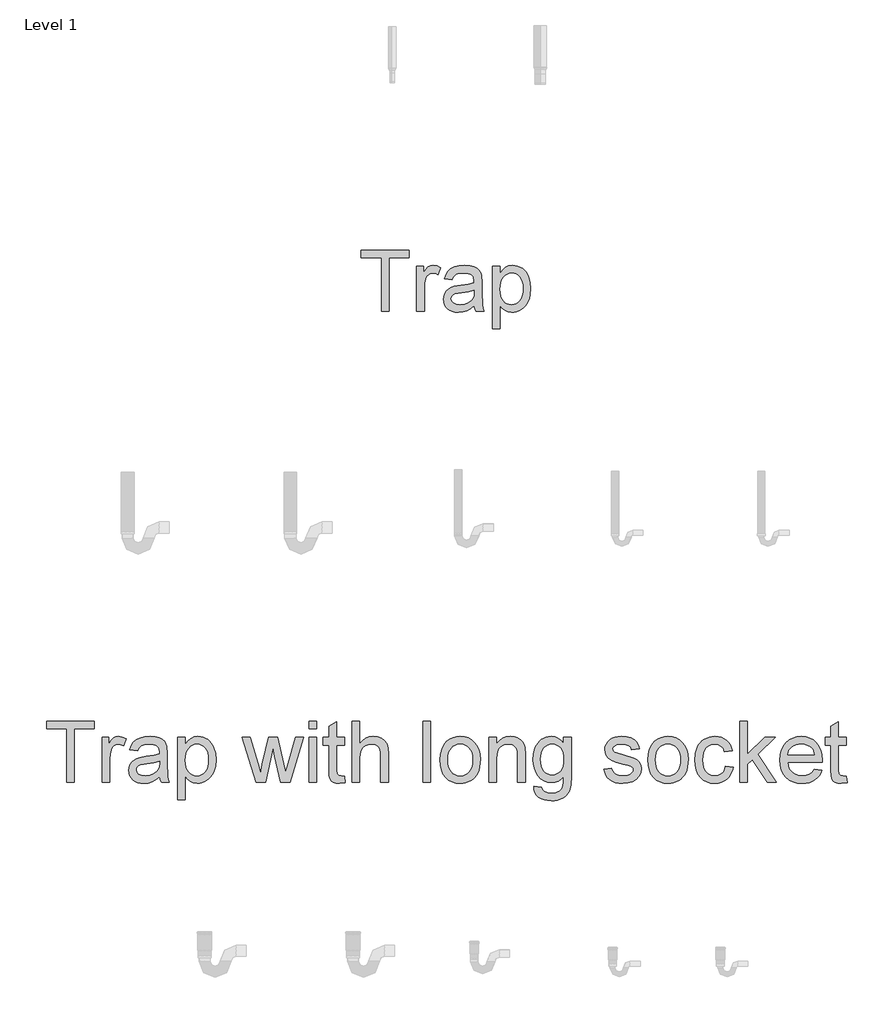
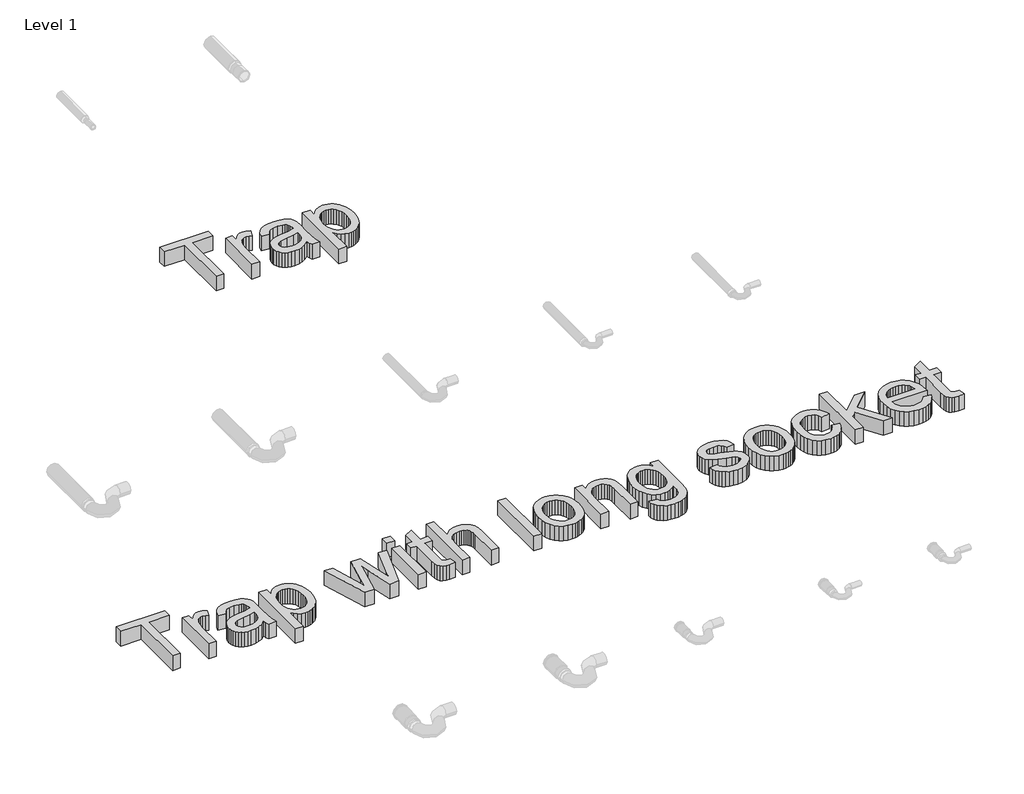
# One storey, part 27 of 29: 2 proxies.
"""IFC4 building model written with IfcOpenShell, lengths in millimetres."""

from ifc_helpers import new_model, si_unit, origin, origin_with_axes, place, context, project, spatial, polyline, outline, extrude, element, save

model = new_model("IFC4")

# Units and contexts
model_context = context("Model", 3, world=origin())
ifc_project = project(units=[si_unit("LENGTHUNIT", "METRE", prefix="MILLI")], contexts=[model_context])

# Site, building, storey
site = spatial("IfcSite", under=ifc_project)
building = spatial("IfcBuilding", under=site)
storey = spatial("IfcBuildingStorey", under=building, Name="Level 1", Elevation=0.0)

# Proxies
placement = place(None, origin())
element("IfcBuildingElementProxy", 1, Name="600mm Arial", ObjectType="600mm Arial", at=placement, inside=storey, context=model_context, shape_type="SweptSolid", body=[
    extrude(outline(polyline([(72567.5168432, 17212.0086588), (72567.5168432, 17739.4042871), (72369.7434826, 17739.4042871), (72369.7434826, 17814.7465197), (72840.6324364, 17814.7465197), (72840.6324364, 17739.4042871), (72642.8590758, 17739.4042871), (72642.8590758, 17212.0086588), (72567.5168432, 17212.0086588)])), origin_with_axes(), (0.0, 0.0, 1.0), 150.0),
    extrude(outline(polyline([(72915.974669, 17212.0086588), (72915.974669, 17654.6442754), (72981.8991226, 17654.6442754), (72981.8991226, 17589.1612803), (73006.2529106, 17627.1267022), (73028.6937123, 17649.4939275), (73051.2080905, 17660.4200227), (73075.7826077, 17664.0620545), (73113.3065712, 17658.249519), (73151.4191459, 17640.8119124), (73126.2560175, 17573.2687781), (73099.7685138, 17584.8570609), (73073.2810102, 17588.7198219), (73050.7850262, 17585.0042137), (73030.6802751, 17573.8573893), (73014.438285, 17556.1254771), (73003.5305839, 17532.6546058), (72994.3703222, 17490.5689056), (72991.3169016, 17444.6572326), (72991.3169016, 17212.0086588), (72915.974669, 17212.0086588)])), origin_with_axes(), (0.0, 0.0, 1.0), 150.0),
    extrude(outline(polyline([(73481.0414136, 17268.5153333), (73445.0441604, 17237.6500339), (73407.9800494, 17217.4533123), (73369.002952, 17206.3064879), (73327.2667396, 17202.5908797), (73293.7205002, 17204.8257628), (73264.3037362, 17211.5304122), (73239.0164475, 17222.7048278), (73217.8586343, 17238.3490097), (73201.1521932, 17257.4696764), (73189.2190209, 17279.0735465), (73182.0591176, 17303.1606202), (73179.6724832, 17329.7308973), (73183.2777267, 17360.9640787), (73194.0934574, 17389.3277805), (73210.7769059, 17413.6079922), (73231.9853029, 17432.5907031), (73256.9093081, 17446.9381009), (73284.739581, 17457.3123732), (73349.9282705, 17468.6431386), (73426.9627603, 17480.5625153), (73480.5999552, 17494.5420311), (73481.0414136, 17511.3174501), (73475.8542775, 17544.9418644), (73469.3703573, 17557.39467), (73460.2928691, 17566.9412078), (73444.602702, 17576.4693514), (73425.4912323, 17583.2751683), (73377.0043854, 17588.7198219), (73332.122782, 17585.0961842), (73300.779236, 17574.2252713), (73279.4052921, 17554.1205202), (73264.4324949, 17522.7953683), (73189.0902622, 17532.2131474), (73202.1684672, 17573.4159309), (73221.684607, 17605.7895464), (73249.4596977, 17630.5480047), (73287.314755, 17648.9053163), (73333.6127041, 17660.2728699), (73386.7164701, 17664.0620545), (73437.6497323, 17660.7143283), (73478.0247813, 17650.6711499), (73508.4670164, 17635.569594), (73529.601837, 17617.0467355), (73543.618141, 17594.1460813), (73552.7048263, 17565.9111382), (73556.3836462, 17499.9866846), (73556.3836462, 17406.2503523), (73560.209619, 17275.3579384), (73565.8750017, 17243.0027169), (73575.2192044, 17212.0086588), (73499.8769718, 17212.0086588), (73487.8104423, 17238.2018569), (73481.0414136, 17268.5153333)]), holes=[polyline([(73481.0414136, 17419.1997985), (73430.4208511, 17406.6550225), (73359.4932024, 17396.0968092), (73294.6723949, 17383.883127), (73277.8050054, 17375.5322057), (73265.3154116, 17364.0174992), (73257.5898897, 17350.2219244), (73255.0147158, 17335.028398), (73260.6249162, 17312.6243845), (73277.4555175, 17294.2670729), (73305.1386376, 17282.0166025), (73343.3063946, 17277.9331123), (73383.7734141, 17282.4396668), (73419.531544, 17295.9593301), (73448.5206452, 17315.8801401), (73468.6805786, 17339.5901347), (73477.6201111, 17364.0174992), (73480.5999552, 17397.8626428), (73481.0414136, 17419.1997985)])]), origin_with_axes(), (0.0, 0.0, 1.0), 150.0),
    extrude(outline(polyline([(73659.9792161, 17042.4886354), (73659.9792161, 17654.6442754), (73735.3214487, 17654.6442754), (73735.3214487, 17580.7735708), (73759.895966, 17617.2122824), (73787.4135392, 17643.2399336), (73819.4928492, 17658.8565242), (73857.7525767, 17664.0620545), (73884.0285482, 17662.2410386), (73908.704233, 17656.777991), (73931.7796312, 17647.6729116), (73953.2547426, 17634.9258005), (73972.6605179, 17618.8677514), (73989.5279074, 17599.8298581), (74003.8569111, 17577.8121207), (74015.647529, 17552.8145391), (74031.4296666, 17497.3011461), (74036.6903791, 17436.7109815), (74030.7490849, 17372.27645), (74023.3224671, 17342.6113656), (74012.9252022, 17314.6477355), (73999.6998445, 17289.116725), (73983.7889482, 17266.7494997), (73965.1925134, 17247.5460595), (73943.91054, 17231.5064045), (73920.9868931, 17218.8558624), (73897.4654381, 17209.8197609), (73873.3461748, 17204.3981), (73848.6291032, 17202.5908797), (73813.9930134, 17207.428528), (73783.0725317, 17221.9414727), (73756.6034221, 17243.8488455), (73735.3214487, 17270.869778), (73735.3214487, 17042.4886354), (73659.9792161, 17042.4886354)]), holes=[polyline([(73735.3214487, 17429.7947999), (73737.3585952, 17393.484847), (73743.4700349, 17362.2516656), (73753.6557676, 17336.0952558), (73767.9157935, 17315.0156175), (73785.0820871, 17298.7920215), (73803.9866231, 17287.2037386), (73824.6294015, 17280.2507689), (73847.0104224, 17277.9331123), (73869.71334, 17280.3335424), (73890.7331975, 17287.5348324), (73910.0699949, 17299.5369825), (73927.7237322, 17316.3399926), (73942.4344134, 17338.1829861), (73952.9420429, 17365.3050862), (73959.2466206, 17397.7062929), (73961.3481465, 17435.3866063), (73959.2972044, 17471.3838595), (73953.144378, 17502.5618586), (73942.8896674, 17528.9206035), (73928.5330726, 17550.4600944), (73911.3253922, 17567.1987251), (73892.5174252, 17579.15489), (73872.1091715, 17586.3285889), (73850.1006312, 17588.7198219), (73828.1610687, 17586.1768376), (73807.5182902, 17578.5478847), (73788.1722958, 17565.8329632), (73770.1230854, 17548.0320732), (73754.8973694, 17525.3843379), (73744.0218579, 17498.1288806), (73737.496551, 17466.2657012), (73735.3214487, 17429.7947999)])]), origin_with_axes(), (0.0, 0.0, 1.0), 150.0),
])
element("IfcBuildingElementProxy", 2, Name="600mm Arial", ObjectType="600mm Arial", at=placement, inside=storey, context=model_context, shape_type="SweptSolid", body=[
    extrude(outline(polyline([(69472.8636888, 12581.4756524), (69472.8636888, 13108.8712807), (69275.0903282, 13108.8712807), (69275.0903282, 13184.2135133), (69745.979282, 13184.2135133), (69745.979282, 13108.8712807), (69548.2059214, 13108.8712807), (69548.2059214, 12581.4756524), (69472.8636888, 12581.4756524)])), origin_with_axes(), (0.0, 0.0, 1.0), 150.0),
    extrude(outline(polyline([(69821.3215146, 12581.4756524), (69821.3215146, 13024.111269), (69887.2459681, 13024.111269), (69887.2459681, 12958.6282739), (69911.5997562, 12996.5936958), (69934.0405579, 13018.9609211), (69956.554936, 13029.8870163), (69981.1294533, 13033.5290481), (70018.6534168, 13027.7165125), (70056.7659915, 13010.278906), (70031.602863, 12942.7357717), (70005.1153594, 12954.3240545), (69978.6278557, 12958.1868155), (69956.1318717, 12954.4712073), (69936.0271207, 12943.3243829), (69919.7851306, 12925.5924707), (69908.8774295, 12902.1215994), (69899.7171678, 12860.0358991), (69896.6637472, 12814.1242261), (69896.6637472, 12581.4756524), (69821.3215146, 12581.4756524)])), origin_with_axes(), (0.0, 0.0, 1.0), 150.0),
    extrude(outline(polyline([(70386.3882592, 12637.9823269), (70350.391006, 12607.1170275), (70313.3268949, 12586.9203059), (70274.3497976, 12575.7734815), (70232.6135852, 12572.0578733), (70199.0673458, 12574.2927564), (70169.6505817, 12580.9974058), (70144.3632931, 12592.1718214), (70123.2054798, 12607.8160033), (70106.4990387, 12626.9366699), (70094.5658665, 12648.5405401), (70087.4059632, 12672.6276138), (70085.0193287, 12699.1978909), (70088.6245723, 12730.4310722), (70099.440303, 12758.7947741), (70116.1237514, 12783.0749858), (70137.3321485, 12802.0576967), (70162.2561536, 12816.4050945), (70190.0864266, 12826.7793668), (70255.2751161, 12838.1101322), (70332.3096059, 12850.0295089), (70385.9468008, 12864.0090247), (70386.3882592, 12880.7844437), (70381.2011231, 12914.408858), (70374.7172029, 12926.8616636), (70365.6397147, 12936.4082013), (70349.9495476, 12945.936345), (70330.8380779, 12952.7421619), (70282.351231, 12958.1868155), (70237.4696275, 12954.5631778), (70206.1260816, 12943.6922648), (70184.7521376, 12923.5875138), (70169.7793404, 12892.2623619), (70094.4371078, 12901.680141), (70107.5153127, 12942.8829245), (70127.0314526, 12975.25654), (70154.8065432, 13000.0149983), (70192.6616005, 13018.3723099), (70238.9595496, 13029.7398635), (70292.0633156, 13033.5290481), (70342.9965779, 13030.1813219), (70383.3716268, 13020.1381434), (70413.8138619, 13005.0365875), (70434.9486826, 12986.5137291), (70448.9649866, 12963.6130749), (70458.0516719, 12935.3781318), (70461.7304918, 12869.4536782), (70461.7304918, 12775.7173458), (70465.5564646, 12644.824932), (70471.2218473, 12612.4697105), (70480.56605, 12581.4756524), (70405.2238173, 12581.4756524), (70393.1572879, 12607.6688505), (70386.3882592, 12637.9823269)]), holes=[polyline([(70386.3882592, 12788.6667921), (70335.7676967, 12776.122016), (70264.840048, 12765.5638028), (70200.0192404, 12753.3501205), (70183.151851, 12744.9991993), (70170.6622572, 12733.4844928), (70162.9367353, 12719.688918), (70160.3615614, 12704.4953916), (70165.9717618, 12682.0913781), (70182.8023631, 12663.7340665), (70210.4854832, 12651.4835961), (70248.6532402, 12647.4001059), (70289.1202597, 12651.9066604), (70324.8783896, 12665.4263237), (70353.8674908, 12685.3471337), (70374.0274242, 12709.0571283), (70382.9669566, 12733.4844928), (70385.9468008, 12767.3296364), (70386.3882592, 12788.6667921)])]), origin_with_axes(), (0.0, 0.0, 1.0), 150.0),
    extrude(outline(polyline([(70565.3260616, 12411.955629), (70565.3260616, 13024.111269), (70640.6682943, 13024.111269), (70640.6682943, 12950.2405644), (70665.2428115, 12986.679276), (70692.7603848, 13012.7069271), (70724.8396948, 13028.3235178), (70763.0994223, 13033.5290481), (70789.3753938, 13031.7080322), (70814.0510786, 13026.2449846), (70837.1264767, 13017.1399052), (70858.6015882, 13004.3927941), (70878.0073634, 12988.334745), (70894.8747529, 12969.2968517), (70909.2037566, 12947.2791143), (70920.9943746, 12922.2815327), (70936.7765122, 12866.7681397), (70942.0372247, 12806.177975), (70936.0959305, 12741.7434436), (70928.6693127, 12712.0783592), (70918.2720478, 12684.1147291), (70905.0466901, 12658.5837186), (70889.1357938, 12636.2164933), (70870.5393589, 12617.0130531), (70849.2573855, 12600.9733981), (70826.3337387, 12588.322856), (70802.8122836, 12579.2867545), (70778.6930203, 12573.8650936), (70753.9759488, 12572.0578733), (70719.3398589, 12576.8955216), (70688.4193772, 12591.4084663), (70661.9502677, 12613.3158391), (70640.6682943, 12640.3367716), (70640.6682943, 12411.955629), (70565.3260616, 12411.955629)]), holes=[polyline([(70640.6682943, 12799.2617935), (70642.7054408, 12762.9518406), (70648.8168804, 12731.7186592), (70659.0026132, 12705.5622494), (70673.262639, 12684.482611), (70690.4289326, 12668.2590151), (70709.3334687, 12656.6707322), (70729.9762471, 12649.7177625), (70752.357268, 12647.4001059), (70775.0601856, 12649.800536), (70796.0800431, 12657.001826), (70815.4168405, 12669.0039761), (70833.0705777, 12685.8069862), (70847.781259, 12707.6499797), (70858.2888885, 12734.7720798), (70864.5934662, 12767.1732865), (70866.6949921, 12804.8535999), (70864.64405, 12840.8508531), (70858.4912236, 12872.0288522), (70848.236513, 12898.3875971), (70833.8799181, 12919.927088), (70816.6722378, 12936.6657187), (70797.8642708, 12948.6218836), (70777.4560171, 12955.7955825), (70755.4474768, 12958.1868155), (70733.5079143, 12955.6438312), (70712.8651358, 12948.0148783), (70693.5191414, 12935.2999568), (70675.469931, 12917.4990668), (70660.2442149, 12894.8513315), (70649.3687034, 12867.5958741), (70642.8433966, 12835.7326948), (70640.6682943, 12799.2617935)])]), origin_with_axes(), (0.0, 0.0, 1.0), 150.0),
    extrude(outline(polyline([(71335.6709595, 12581.4756524), (71201.0261493, 13024.111269), (71279.3114379, 13024.111269), (71355.6837401, 12765.8581084), (71378.4924238, 12673.593304), (71397.1808291, 12762.473594), (71457.9549347, 13024.111269), (71547.7181416, 13024.111269), (71608.1979416, 12763.209358), (71624.8262078, 12682.7167775), (71648.664961, 12767.623942), (71725.184416, 13024.111269), (71803.7640102, 13024.111269), (71668.0891304, 12581.4756524), (71577.0015484, 12581.4756524), (71519.1704987, 12841.0531882), (71502.3950798, 12921.9872271), (71427.7886111, 12581.4756524), (71335.6709595, 12581.4756524)])), origin_with_axes(), (0.0, 0.0, 1.0), 150.0),
    extrude(outline(polyline([(71855.5617951, 12581.4756524), (71855.5617951, 13024.111269), (71930.9040277, 13024.111269), (71930.9040277, 12581.4756524), (71855.5617951, 12581.4756524)])), origin_with_axes(), (0.0, 0.0, 1.0), 150.0),
    extrude(outline(polyline([(71855.5617951, 13108.8712807), (71855.5617951, 13184.2135133), (71930.9040277, 13184.2135133), (71930.9040277, 13108.8712807), (71855.5617951, 13108.8712807)])), origin_with_axes(), (0.0, 0.0, 1.0), 150.0),
    extrude(outline(polyline([(72204.019621, 12644.3098972), (72213.4374, 12579.2683604), (72157.0778784, 12572.0578733), (72120.9150782, 12575.1848703), (72093.949328, 12584.5658612), (72074.8930407, 12599.0236236), (72062.4586292, 12617.3809351), (72055.6160241, 12648.9084221), (72053.3351557, 12702.8767108), (72053.3351557, 12948.7690364), (71996.8284813, 12948.7690364), (71996.8284813, 13024.111269), (72053.3351557, 13024.111269), (72053.3351557, 13131.6799644), (72128.6773883, 13175.9729566), (72128.6773883, 13024.111269), (72204.019621, 13024.111269), (72204.019621, 12948.7690364), (72128.6773883, 12948.7690364), (72128.6773883, 12705.0840028), (72132.6505139, 12666.2356641), (72145.5263837, 12652.4768775), (72156.3972967, 12648.6692988), (72171.204547, 12647.4001059), (72204.019621, 12644.3098972)])), origin_with_axes(), (0.0, 0.0, 1.0), 150.0),
    extrude(outline(polyline([(72279.3618536, 12581.4756524), (72279.3618536, 13184.2135133), (72354.7040862, 13184.2135133), (72354.7040862, 12962.6013994), (72382.3780093, 12993.6322457), (72413.4548408, 13015.7971359), (72447.9345808, 13029.09607), (72485.8172293, 13033.5290481), (72531.3242321, 13028.6913998), (72570.4300882, 13014.1784551), (72601.2218112, 12991.1306481), (72621.7864147, 12960.688413), (72633.3746975, 12918.8602302), (72637.2374585, 12861.6545799), (72637.2374585, 12581.4756524), (72561.8952259, 12581.4756524), (72561.8952259, 12853.8554816), (72560.3961067, 12879.2945216), (72555.8987493, 12901.0179534), (72548.4031537, 12919.0257771), (72537.9093198, 12933.3179926), (72524.665568, 12944.1981026), (72508.9202186, 12951.9696097), (72490.6732716, 12956.632514), (72469.9247271, 12958.1868155), (72438.0845404, 12953.9929607), (72408.1941283, 12941.4113965), (72383.43567, 12921.6561333), (72366.9913448, 12895.9411819), (72357.7759008, 12861.7649445), (72354.7040862, 12816.6258237), (72354.7040862, 12581.4756524), (72279.3618536, 12581.4756524)])), origin_with_axes(), (0.0, 0.0, 1.0), 150.0),
    extrude(outline(polyline([(72976.2775052, 12581.4756524), (72976.2775052, 13184.2135133), (73051.6197378, 13184.2135133), (73051.6197378, 12581.4756524), (72976.2775052, 12581.4756524)])), origin_with_axes(), (0.0, 0.0, 1.0), 150.0),
    extrude(outline(polyline([(73145.7975286, 12802.7934607), (73149.8718217, 12860.1186726), (73162.094701, 12909.5160275), (73182.4661665, 12950.9855254), (73210.9862182, 12984.5271663), (73239.6994079, 13005.9654896), (73271.3924418, 13021.2785776), (73306.0653198, 13030.4664305), (73343.718042, 13033.5290481), (73385.2841089, 13029.7996443), (73422.8678533, 13018.6114332), (73456.469275, 12999.9644145), (73486.0883742, 12973.8585885), (73510.2628198, 12941.1768717), (73527.5302809, 12902.8021811), (73537.8907576, 12858.7345166), (73541.3442498, 12808.9738782), (73539.8175395, 12768.6448145), (73535.2374087, 12732.8590934), (73527.6038573, 12701.616715), (73516.9168853, 12674.9176792), (73503.3098501, 12651.8560766), (73486.9161086, 12631.5259978), (73467.7356611, 12613.9274429), (73445.7685075, 12599.0604118), (73421.8699734, 12587.2468012), (73396.8953844, 12578.8085079), (73370.8447406, 12573.745532), (73343.718042, 12572.0578733), (73301.5449698, 12575.7734815), (73263.6117376, 12586.9203059), (73229.9183453, 12605.4983467), (73200.4647931, 12631.5076037), (73176.5478649, 12664.5066187), (73159.4643447, 12704.0539332), (73149.2142326, 12750.1495472), (73145.7975286, 12802.7934607)]), holes=[polyline([(73221.1397612, 12802.9406135), (73223.319462, 12766.3961358), (73229.8585645, 12734.7536857), (73240.7570686, 12708.0132632), (73256.0149744, 12686.1748682), (73274.574621, 12669.2109097), (73295.3783479, 12657.0937965), (73318.4261548, 12649.8235286), (73343.718042, 12647.4001059), (73368.8811705, 12649.8373241), (73391.837007, 12657.1489788), (73412.5855515, 12669.3350699), (73431.1268041, 12686.3955974), (73446.3847098, 12708.450123), (73457.2832139, 12735.6182084), (73463.8223164, 12767.8998535), (73466.0020172, 12805.2950583), (73463.8085208, 12840.6807077), (73457.2280316, 12871.4954233), (73446.2605496, 12897.7392051), (73430.9060749, 12919.4120532), (73412.2958444, 12936.3760117), (73391.5610955, 12948.4931249), (73368.701828, 12955.7633928), (73343.718042, 12958.1868155), (73318.4261548, 12955.7725899), (73295.3783479, 12948.5299131), (73274.574621, 12936.4587851), (73256.0149744, 12919.559206), (73240.7570686, 12897.7851904), (73229.8585645, 12871.0907531), (73223.319462, 12839.4758941), (73221.1397612, 12802.9406135)])]), origin_with_axes(), (0.0, 0.0, 1.0), 150.0),
    extrude(outline(polyline([(73626.1042615, 12581.4756524), (73626.1042615, 13024.111269), (73701.4464941, 13024.111269), (73701.4464941, 12962.3070938), (73727.6212981, 12993.4666988), (73759.0568146, 13015.7235595), (73795.7530436, 13029.0776759), (73837.7099851, 13033.5290481), (73874.8476726, 13029.9421986), (73908.858363, 13019.1816503), (73937.2220648, 13002.5901723), (73957.4187864, 12981.510534), (73971.1223907, 12955.9979176), (73980.0067409, 12926.1075055), (73983.9798664, 12853.2668704), (73983.9798664, 12581.4756524), (73908.6376338, 12581.4756524), (73908.6376338, 12843.1133274), (73906.46713, 12882.0720307), (73899.9556187, 12909.7735449), (73887.9442716, 12929.6207785), (73869.2742603, 12945.01664), (73845.3435365, 12954.8942716), (73817.5500518, 12958.1868155), (73794.6723902, 12956.3382084), (73773.4226065, 12950.7923874), (73753.8007006, 12941.5493522), (73735.8066725, 12928.609103), (73720.7740944, 12910.5001118), (73710.0365387, 12885.7508506), (73703.5940053, 12854.3613194), (73701.4464941, 12816.3315181), (73701.4464941, 12581.4756524), (73626.1042615, 12581.4756524)])), origin_with_axes(), (0.0, 0.0, 1.0), 150.0),
    extrude(outline(polyline([(74068.7398781, 12543.8045361), (74144.0821107, 12534.386757), (74152.3962438, 12510.8423093), (74168.5094752, 12494.6555015), (74200.184115, 12482.0739373), (74241.6444158, 12477.8800826), (74285.8638317, 12482.6257603), (74303.7245025, 12488.5578575), (74318.752482, 12496.8627935), (74341.5611657, 12519.6714772), (74355.5406816, 12550.1321064), (74359.6241717, 12582.5425102), (74360.6910295, 12637.9823269), (74335.6198715, 12613.2606568), (74307.6424458, 12595.602321), (74276.7587523, 12585.0073195), (74242.968791, 12581.4756524), (74201.6602415, 12585.5867337), (74165.2905077, 12597.9199776), (74133.8595898, 12618.4753841), (74107.3674876, 12647.2529531), (74086.3476301, 12681.7786784), (74071.3334462, 12719.5785534), (74062.3249358, 12760.6525781), (74059.322099, 12805.0007527), (74064.7115703, 12865.8300406), (74080.879984, 12921.7664979), (74092.8637399, 12946.9894072), (74107.257123, 12969.168093), (74124.0601331, 12988.3025553), (74143.2727703, 13004.3927941), (74164.5869334, 13017.1399052), (74187.6945213, 13026.2449846), (74212.5955338, 13031.7080322), (74239.2899711, 13033.5290481), (74274.5238692, 13029.4087697), (74306.5020116, 13017.0479347), (74335.2243984, 12996.446543), (74360.6910295, 12967.6045945), (74360.6910295, 13024.111269), (74436.0332621, 13024.111269), (74436.0332621, 12641.9554524), (74430.8829142, 12553.7189559), (74424.4449792, 12520.8992834), (74415.4318704, 12495.6119947), (74403.6274568, 12475.2175366), (74388.815608, 12457.0763557), (74370.9963239, 12441.1884521), (74350.1696044, 12427.5538256), (74326.5469818, 12416.6093363), (74300.3399882, 12408.7918439), (74271.5486235, 12404.1013484), (74240.1728879, 12402.5378499), (74203.2605282, 12404.7405434), (74170.0729737, 12411.3486237), (74140.6102244, 12422.362091), (74114.8722803, 12437.7809451), (74094.0823491, 12457.6235802), (74079.4636383, 12481.9083904), (74071.016148, 12510.6353757), (74068.7398781, 12543.8045361)]), holes=[polyline([(74134.6643316, 12810.1511006), (74136.673887, 12772.8984501), (74142.7025532, 12741.0444678), (74152.7503302, 12714.5891538), (74166.817218, 12693.5325081), (74183.9191323, 12677.4698605), (74203.0719887, 12665.9965408), (74224.2757871, 12659.112549), (74247.5305278, 12656.817885), (74270.5553421, 12659.0987534), (74291.6579731, 12665.9413585), (74310.8384206, 12677.3457003), (74328.0966847, 12693.3117789), (74342.3567105, 12714.161491), (74352.5424433, 12740.2167333), (74358.6538829, 12771.4775059), (74360.6910295, 12807.9438086), (74358.5941021, 12842.8879996), (74352.30332, 12873.2612569), (74341.8186831, 12899.0635803), (74327.1401915, 12920.29497), (74309.5094469, 12936.8726524), (74290.168051, 12948.7138541), (74269.1160038, 12955.8185751), (74246.3533054, 12958.1868155), (74223.9722845, 12955.8553633), (74203.329506, 12948.8610069), (74184.42497, 12937.2037462), (74167.2586764, 12920.8835811), (74152.9986506, 12899.9740882), (74142.8129178, 12874.5488439), (74136.7014782, 12844.607848), (74134.6643316, 12810.1511006)])]), origin_with_axes(), (0.0, 0.0, 1.0), 150.0),
    extrude(outline(polyline([(74756.2377507, 12713.3245595), (74831.5799833, 12722.7423385), (74836.132523, 12705.5622494), (74843.4625718, 12690.5158758), (74853.5701296, 12677.6032177), (74866.4551965, 12666.8242753), (74882.1545606, 12658.3262012), (74900.7050102, 12652.2561483), (74946.3591658, 12647.4001059), (74991.4614984, 12651.8514781), (75008.9910755, 12657.4156933), (75023.1729264, 12665.2055945), (75041.9349082, 12684.5561874), (75046.6254036, 12695.3903122), (75048.1889021, 12706.9969892), (75046.6162065, 12717.1689263), (75041.89812, 12726.2004293), (75023.0257736, 12740.8421327), (74994.8092246, 12750.4070646), (74945.476249, 12762.3264412), (74876.7191041, 12782.2104631), (74832.0214417, 12799.1882171), (74803.308252, 12817.7110756), (74782.5045252, 12842.2304106), (74769.8677786, 12871.1827236), (74765.6555298, 12903.0045162), (74769.0400441, 12932.1959525), (74779.1935872, 12959.1433086), (74795.196454, 12982.7797268), (74816.1289395, 13002.0383493), (74836.9326663, 13014.160061), (74864.0271753, 13024.3319982), (74895.3523272, 13031.2297856), (74928.8479828, 13033.5290481), (74977.8866528, 13029.831834), (75020.524176, 13018.7401919), (75054.810778, 13001.3393735), (75078.7966841, 12978.7146308), (75094.6891863, 12949.1921007), (75104.6955765, 12911.0979201), (75029.3533439, 12901.680141), (75019.8435943, 12925.3901356), (75001.0264303, 12943.2508065), (74972.7179108, 12954.4528132), (74934.7340948, 12958.1868155), (74891.4711721, 12954.6183601), (74862.6292237, 12943.912994), (74846.4056277, 12928.4619502), (74840.9977624, 12910.6564617), (74843.2418426, 12899.0681788), (74849.9740831, 12888.7306948), (74861.4887895, 12879.4968567), (74878.0802675, 12872.1024286), (74942.9746515, 12856.0627736), (75053.5599792, 12820.5989493), (75082.7698096, 12803.6395893), (75104.9163057, 12780.4262354), (75118.8774274, 12750.8853112), (75123.5311347, 12714.9432402), (75118.0680871, 12677.7871587), (75101.6789442, 12642.8383692), (75074.9891054, 12612.8375925), (75038.6239702, 12590.5255495), (74994.69886, 12576.6747924), (74945.3290962, 12572.0578733), (74904.7793033, 12574.2835594), (74869.3614642, 12580.9606176), (74839.075579, 12592.089048), (74813.9216475, 12607.6688505), (74793.3754381, 12627.6264487), (74776.9127188, 12651.8882663), (74764.5334897, 12680.4543032), (74756.2377507, 12713.3245595)])), origin_with_axes(), (0.0, 0.0, 1.0), 150.0),
    extrude(outline(polyline([(75189.4555882, 12802.7934607), (75193.5298813, 12860.1186726), (75205.7527606, 12909.5160275), (75226.1242261, 12950.9855254), (75254.6442778, 12984.5271663), (75283.3574675, 13005.9654896), (75315.0505014, 13021.2785776), (75349.7233794, 13030.4664305), (75387.3761016, 13033.5290481), (75428.9421686, 13029.7996443), (75466.5259129, 13018.6114332), (75500.1273346, 12999.9644145), (75529.7464338, 12973.8585885), (75553.9208794, 12941.1768717), (75571.1883405, 12902.8021811), (75581.5488172, 12858.7345166), (75585.0023094, 12808.9738782), (75583.4755992, 12768.6448145), (75578.8954683, 12732.8590934), (75571.2619169, 12701.616715), (75560.574945, 12674.9176792), (75546.9679097, 12651.8560766), (75530.5741682, 12631.5259978), (75511.3937207, 12613.9274429), (75489.4265671, 12599.0604118), (75465.528033, 12587.2468012), (75440.553444, 12578.8085079), (75414.5028002, 12573.745532), (75387.3761016, 12572.0578733), (75345.2030294, 12575.7734815), (75307.2697972, 12586.9203059), (75273.5764049, 12605.4983467), (75244.1228527, 12631.5076037), (75220.2059245, 12664.5066187), (75203.1224043, 12704.0539332), (75192.8722922, 12750.1495472), (75189.4555882, 12802.7934607)]), holes=[polyline([(75264.7978208, 12802.9406135), (75266.9775217, 12766.3961358), (75273.5166241, 12734.7536857), (75284.4151282, 12708.0132632), (75299.673034, 12686.1748682), (75318.2326806, 12669.2109097), (75339.0364075, 12657.0937965), (75362.0842145, 12649.8235286), (75387.3761016, 12647.4001059), (75412.5392301, 12649.8373241), (75435.4950666, 12657.1489788), (75456.2436111, 12669.3350699), (75474.7848637, 12686.3955974), (75490.0427694, 12708.450123), (75500.9412735, 12735.6182084), (75507.480376, 12767.8998535), (75509.6600768, 12805.2950583), (75507.4665804, 12840.6807077), (75500.8860912, 12871.4954233), (75489.9186093, 12897.7392051), (75474.5641345, 12919.4120532), (75455.953904, 12936.3760117), (75435.2191551, 12948.4931249), (75412.3598876, 12955.7633928), (75387.3761016, 12958.1868155), (75362.0842145, 12955.7725899), (75339.0364075, 12948.5299131), (75318.2326806, 12936.4587851), (75299.673034, 12919.559206), (75284.4151282, 12897.7851904), (75273.5166241, 12871.0907531), (75266.9775217, 12839.4758941), (75264.7978208, 12802.9406135)])]), origin_with_axes(), (0.0, 0.0, 1.0), 150.0),
    extrude(outline(polyline([(75952.2956934, 12741.5778967), (76027.637926, 12732.1601176), (76019.4433546, 12696.6089213), (76006.6318641, 12665.1504122), (75989.2034546, 12637.7845903), (75967.158126, 12614.5114556), (75941.4247805, 12595.9380133), (75912.9323199, 12582.6712689), (75881.6807444, 12574.7112222), (75847.670054, 12572.0578733), (75805.4142083, 12575.7596859), (75767.5269613, 12586.8651236), (75734.0083131, 12605.3741865), (75704.8582635, 12631.2868745), (75681.263232, 12664.1157441), (75664.4096381, 12703.3733515), (75654.2974817, 12749.0596968), (75650.926763, 12801.1747799), (75656.6841162, 12868.2212735), (75663.8808077, 12898.3921957), (75673.9561759, 12926.3282347), (75686.9791985, 12951.4683705), (75703.0188535, 12973.2515832), (75722.0751408, 12991.6778726), (75744.1480605, 13006.7472388), (75768.2397327, 13018.4642804), (75793.3522774, 13026.8335958), (75819.4856946, 13031.855185), (75846.6399844, 13033.5290481), (75880.0666622, 13031.2297856), (75910.3019637, 13024.3319982), (75937.3458888, 13012.8356858), (75961.1984377, 12996.7408486), (75981.4549401, 12976.4153683), (75997.7107257, 12952.2271271), (76009.9657947, 12924.176125), (76018.220147, 12892.2623619), (75942.8779143, 12882.8445828), (75929.2110982, 12915.7148391), (75907.9291248, 12939.2776809), (75880.2092165, 12953.4595318), (75847.2285956, 12958.1868155), (75821.6286073, 12955.8599618), (75798.5394135, 12948.879401), (75777.9610144, 12937.2451329), (75759.8934099, 12920.9571575), (75745.1827287, 12899.6383959), (75734.6750992, 12872.911769), (75728.3705215, 12840.7772767), (75726.2689956, 12803.2349191), (75728.3245362, 12765.1269429), (75734.4911582, 12732.6199701), (75744.7688614, 12705.7140007), (75759.1576459, 12684.4090346), (75776.8665655, 12668.2176283), (75797.1046738, 12656.6523381), (75819.8719707, 12649.713164), (75845.1684564, 12647.4001059), (75884.182342, 12653.1758533), (75901.05433, 12660.3955374), (75916.1696815, 12670.5030952), (75929.1053321, 12683.6088913), (75939.4382177, 12699.8232902), (75947.1683381, 12719.146292), (75952.2956934, 12741.5778967)])), origin_with_axes(), (0.0, 0.0, 1.0), 150.0),
    extrude(outline(polyline([(76093.5623796, 12581.4756524), (76093.5623796, 13184.2135133), (76168.9046122, 13184.2135133), (76168.9046122, 12860.3302047), (76337.8360244, 13024.111269), (76442.0202054, 13024.111269), (76271.028654, 12858.2700656), (76451.4379845, 12581.4756524), (76363.4406112, 12581.4756524), (76217.0235771, 12805.8836695), (76168.9046122, 12759.2362325), (76168.9046122, 12581.4756524), (76093.5623796, 12581.4756524)])), origin_with_axes(), (0.0, 0.0, 1.0), 150.0),
    extrude(outline(polyline([(76827.2662307, 12713.3245595), (76901.1369354, 12703.9067804), (76889.8107685, 12674.3198709), (76874.520673, 12648.2462345), (76855.2666491, 12625.6858712), (76832.0486967, 12606.6387809), (76805.1059391, 12591.5096338), (76774.6774995, 12580.7031002), (76740.7633781, 12574.21918), (76703.3635748, 12572.0578733), (76656.6149702, 12575.787277), (76614.9615313, 12586.9754882), (76578.4032581, 12605.6225069), (76546.9401504, 12631.7283329), (76521.6390662, 12664.5663995), (76503.5668632, 12703.4101397), (76492.7235414, 12748.2595534), (76489.1091008, 12799.1146407), (76492.7603296, 12851.6941749), (76503.714016, 12898.0381092), (76521.97016, 12938.1464438), (76547.5287616, 12972.0191785), (76578.9090958, 12998.9297464), (76614.6304375, 13018.1515807), (76654.6927868, 13029.6846812), (76699.0961436, 13033.5290481), (76742.0693592, 13029.6938783), (76780.9314935, 13018.1883689), (76815.6825464, 12999.0125199), (76846.3225181, 12972.1663313), (76871.3338952, 12938.367173), (76889.1991646, 12898.3324148), (76899.9183263, 12852.0620569), (76903.4913801, 12799.5560991), (76903.0499218, 12779.249013), (76564.4513334, 12779.249013), (76568.8153336, 12749.1838569), (76577.4927501, 12722.8527031), (76590.4835831, 12700.2555516), (76607.7878324, 12681.3924023), (76628.449005, 12666.5207726), (76651.5106076, 12655.89818), (76676.9726401, 12649.5246245), (76704.8351028, 12647.4001059), (76744.9342402, 12651.3364433), (76778.7058074, 12663.1454553), (76806.1498042, 12683.5629061), (76827.2662307, 12713.3245595)]), holes=[polyline([(76564.4513334, 12854.5912456), (76828.1491475, 12854.5912456), (76817.9588163, 12894.3960775), (76809.1940277, 12910.0494564), (76797.9828239, 12922.8701439), (76777.4366145, 12938.3211877), (76754.0577137, 12949.3576476), (76727.8461215, 12955.9795235), (76698.801838, 12958.1868155), (76672.3097359, 12956.4255804), (76648.0157286, 12951.1418752), (76625.9198163, 12942.3357), (76606.0219988, 12930.0070546), (76589.3247548, 12914.7261563), (76576.8305625, 12897.063222), (76568.5394221, 12877.0182517), (76564.4513334, 12854.5912456)])]), origin_with_axes(), (0.0, 0.0, 1.0), 150.0),
    extrude(outline(polyline([(77138.9358571, 12644.3098972), (77148.3536361, 12579.2683604), (77091.9941145, 12572.0578733), (77055.8313143, 12575.1848703), (77028.8655641, 12584.5658612), (77009.8092768, 12599.0236236), (76997.3748653, 12617.3809351), (76990.5322602, 12648.9084221), (76988.2513918, 12702.8767108), (76988.2513918, 12948.7690364), (76931.7447174, 12948.7690364), (76931.7447174, 13024.111269), (76988.2513918, 13024.111269), (76988.2513918, 13131.6799644), (77063.5936244, 13175.9729566), (77063.5936244, 13024.111269), (77138.9358571, 13024.111269), (77138.9358571, 12948.7690364), (77063.5936244, 12948.7690364), (77063.5936244, 12705.0840028), (77067.56675, 12666.2356641), (77080.4426198, 12652.4768775), (77091.3135328, 12648.6692988), (77106.1207831, 12647.4001059), (77138.9358571, 12644.3098972)])), origin_with_axes(), (0.0, 0.0, 1.0), 150.0),
])

save(model, "model.ifc")
